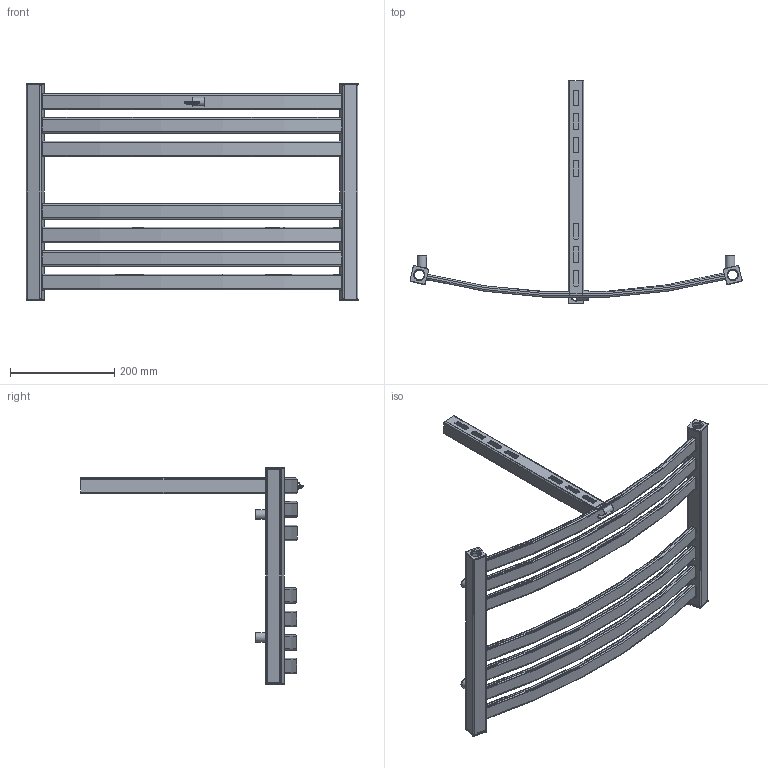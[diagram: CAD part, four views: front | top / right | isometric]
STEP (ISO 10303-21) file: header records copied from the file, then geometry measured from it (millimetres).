
FILE_DESCRIPTION( ( 'Unknown' ), '1' );
FILE_NAME( 'D:/Alplast sp. j/Witryna zespoBu - Projekty/Archiwum/Grzejniki Archiwum/Projekty/STANDARD/AK-EL/AK1-600EL.stp', 'Unknown', ( 'Unknown' ), ( 'Unknown' ), 'PSStep 10.1', 'Unknown', ' ' );
FILE_SCHEMA( ( 'AUTOMOTIVE_DESIGN { 1 0 10303 214 1 1 1 1 }' ) );
Length unit declared in the file: millimetre
Products named in the file (5): Assem1; AK1-EPEL; zaslepka kwadrat otwor; tulejka kat 12stopni; kana³  poziomy lukowy L-600
Bounding box: 635.52 x 426 x 415 mm (x, y, z)
Volume: 704863.9 mm3; surface area: 943714.7 mm2
Topology: 21 solids, 21 shells, 506 faces, 1382 edges, 928 vertices
Faces by surface type: plane 232, cylinder 200, torus 74
Full cylindrical faces by diameter (mm): 16 x5, 18 x5, 18.631 x5, 23 x5
Entity records: 5024 total; most frequent: DIRECTION 736, CARTESIAN_POINT 686, ORIENTED_EDGE 652, EDGE_CURVE 326, AXIS2_PLACEMENT_3D 272, VERTEX_POINT 222, LINE 192, VECTOR 192
